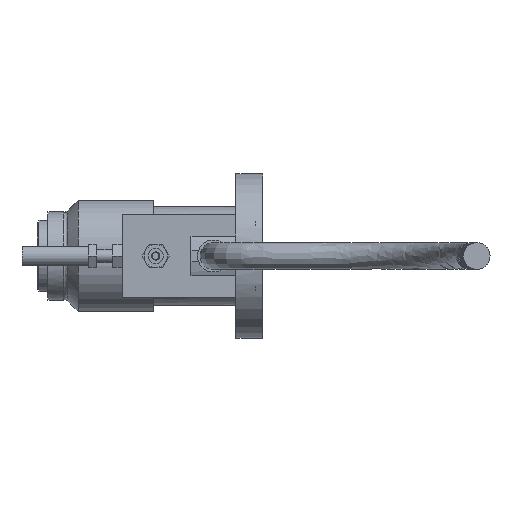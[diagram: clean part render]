
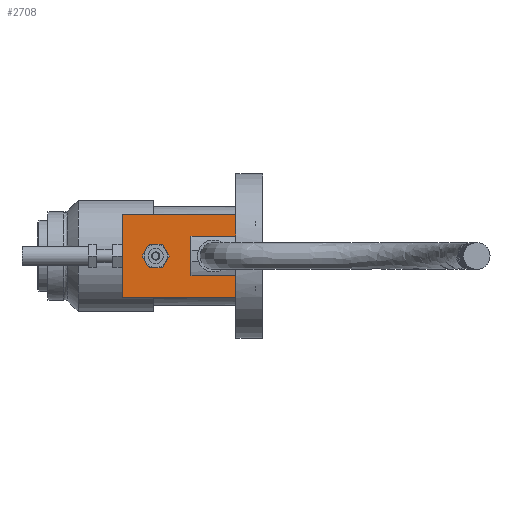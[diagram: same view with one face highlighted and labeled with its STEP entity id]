
A CAD part, left-side view. The second image highlights one B-rep face of the part: STEP entity #2708.
In plain terms, the highlighted planar face has unit normal (-1, 0, 0).
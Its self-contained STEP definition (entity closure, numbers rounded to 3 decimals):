
#138=FACE_BOUND('',#585,.T.);
#417=FACE_OUTER_BOUND('',#584,.T.);
#584=EDGE_LOOP('',(#2209,#2210,#2211,#2212,#2213,#2214,#2215,#2216));
#585=EDGE_LOOP('',(#2217,#2218,#2219,#2220,#2221,#2222));
#722=LINE('',#4242,#953);
#725=LINE('',#4247,#956);
#727=LINE('',#4251,#958);
#729=LINE('',#4255,#960);
#731=LINE('',#4259,#962);
#733=LINE('',#4262,#964);
#745=LINE('',#4303,#976);
#752=LINE('',#4320,#983);
#758=LINE('',#4332,#989);
#759=LINE('',#4335,#990);
#762=LINE('',#4344,#993);
#811=LINE('',#4462,#1042);
#813=LINE('',#4466,#1044);
#814=LINE('',#4467,#1045);
#953=VECTOR('',#3429,10.);
#956=VECTOR('',#3434,10.);
#958=VECTOR('',#3438,10.);
#960=VECTOR('',#3442,10.);
#962=VECTOR('',#3446,10.);
#964=VECTOR('',#3450,10.);
#976=VECTOR('',#3490,10.);
#983=VECTOR('',#3505,10.);
#989=VECTOR('',#3513,10.);
#990=VECTOR('',#3516,10.);
#993=VECTOR('',#3525,10.);
#1042=VECTOR('',#3634,10.);
#1044=VECTOR('',#3638,10.);
#1045=VECTOR('',#3639,10.);
#1222=VERTEX_POINT('',#4240);
#1223=VERTEX_POINT('',#4241);
#1224=VERTEX_POINT('',#4246);
#1225=VERTEX_POINT('',#4250);
#1226=VERTEX_POINT('',#4254);
#1227=VERTEX_POINT('',#4258);
#1241=VERTEX_POINT('',#4300);
#1242=VERTEX_POINT('',#4302);
#1248=VERTEX_POINT('',#4318);
#1253=VERTEX_POINT('',#4330);
#1254=VERTEX_POINT('',#4334);
#1257=VERTEX_POINT('',#4342);
#1296=VERTEX_POINT('',#4461);
#1297=VERTEX_POINT('',#4465);
#1522=EDGE_CURVE('',#1222,#1223,#722,.T.);
#1525=EDGE_CURVE('',#1223,#1224,#725,.T.);
#1527=EDGE_CURVE('',#1224,#1225,#727,.T.);
#1529=EDGE_CURVE('',#1225,#1226,#729,.T.);
#1531=EDGE_CURVE('',#1226,#1227,#731,.T.);
#1533=EDGE_CURVE('',#1227,#1222,#733,.T.);
#1552=EDGE_CURVE('',#1242,#1241,#745,.T.);
#1561=EDGE_CURVE('',#1241,#1248,#752,.T.);
#1567=EDGE_CURVE('',#1248,#1253,#758,.T.);
#1568=EDGE_CURVE('',#1242,#1254,#759,.T.);
#1573=EDGE_CURVE('',#1257,#1253,#762,.T.);
#1630=EDGE_CURVE('',#1254,#1296,#811,.T.);
#1632=EDGE_CURVE('',#1297,#1257,#813,.T.);
#1633=EDGE_CURVE('',#1296,#1297,#814,.T.);
#2209=ORIENTED_EDGE('',*,*,#1567,.T.);
#2210=ORIENTED_EDGE('',*,*,#1573,.F.);
#2211=ORIENTED_EDGE('',*,*,#1632,.F.);
#2212=ORIENTED_EDGE('',*,*,#1633,.F.);
#2213=ORIENTED_EDGE('',*,*,#1630,.F.);
#2214=ORIENTED_EDGE('',*,*,#1568,.F.);
#2215=ORIENTED_EDGE('',*,*,#1552,.T.);
#2216=ORIENTED_EDGE('',*,*,#1561,.T.);
#2217=ORIENTED_EDGE('',*,*,#1522,.T.);
#2218=ORIENTED_EDGE('',*,*,#1525,.T.);
#2219=ORIENTED_EDGE('',*,*,#1527,.T.);
#2220=ORIENTED_EDGE('',*,*,#1529,.T.);
#2221=ORIENTED_EDGE('',*,*,#1531,.T.);
#2222=ORIENTED_EDGE('',*,*,#1533,.T.);
#2575=PLANE('',#2997);
#2708=ADVANCED_FACE('',(#417,#138),#2575,.T.);
#2997=AXIS2_PLACEMENT_3D('',#4464,#3636,#3637);
#3429=DIRECTION('',(0.,-0.5,-0.866));
#3434=DIRECTION('',(0.,0.5,-0.866));
#3438=DIRECTION('',(0.,1.,0.));
#3442=DIRECTION('',(0.,0.5,0.866));
#3446=DIRECTION('',(0.,-0.5,0.866));
#3450=DIRECTION('',(0.,-1.,0.));
#3490=DIRECTION('',(0.,1.,0.));
#3505=DIRECTION('',(0.,0.,1.));
#3513=DIRECTION('',(0.,-1.,0.));
#3516=DIRECTION('',(0.,0.,-1.));
#3525=DIRECTION('',(0.,0.,-1.));
#3634=DIRECTION('',(0.,1.,0.));
#3636=DIRECTION('center_axis',(-1.,0.,0.));
#3637=DIRECTION('ref_axis',(0.,-1.,0.));
#3638=DIRECTION('',(0.,-1.,0.));
#3639=DIRECTION('',(0.,0.,1.));
#4240=CARTESIAN_POINT('',(-30.001,30.079,3.5));
#4241=CARTESIAN_POINT('',(-30.001,28.059,0.));
#4242=CARTESIAN_POINT('',(-30.001,29.814,3.04));
#4246=CARTESIAN_POINT('',(-30.001,30.079,-3.5));
#4247=CARTESIAN_POINT('',(-30.001,30.824,-4.79));
#4250=CARTESIAN_POINT('',(-30.001,34.121,-3.5));
#4251=CARTESIAN_POINT('',(-30.001,38.11,-3.5));
#4254=CARTESIAN_POINT('',(-30.001,36.141,0.));
#4255=CARTESIAN_POINT('',(-30.001,36.886,1.29));
#4258=CARTESIAN_POINT('',(-30.001,34.121,3.5));
#4259=CARTESIAN_POINT('',(-30.001,35.876,0.46));
#4262=CARTESIAN_POINT('',(-30.001,36.09,3.5));
#4300=CARTESIAN_POINT('',(-30.001,21.5,-6.));
#4302=CARTESIAN_POINT('',(-30.001,8.,-6.));
#4303=CARTESIAN_POINT('',(-30.001,25.05,-6.));
#4318=CARTESIAN_POINT('',(-30.001,21.5,6.));
#4320=CARTESIAN_POINT('',(-30.001,21.5,-3.));
#4330=CARTESIAN_POINT('',(-30.001,8.,6.));
#4332=CARTESIAN_POINT('',(-30.001,31.8,6.));
#4334=CARTESIAN_POINT('',(-30.001,8.,-12.5));
#4335=CARTESIAN_POINT('',(-30.001,8.,0.));
#4342=CARTESIAN_POINT('',(-30.001,8.,12.5));
#4344=CARTESIAN_POINT('',(-30.001,8.,0.));
#4461=CARTESIAN_POINT('',(-30.001,42.1,-12.5));
#4462=CARTESIAN_POINT('',(-30.001,42.1,-12.5));
#4464=CARTESIAN_POINT('Origin',(-30.001,42.1,0.));
#4465=CARTESIAN_POINT('',(-30.001,42.1,12.5));
#4466=CARTESIAN_POINT('',(-30.001,42.1,12.5));
#4467=CARTESIAN_POINT('',(-30.001,42.1,0.));
